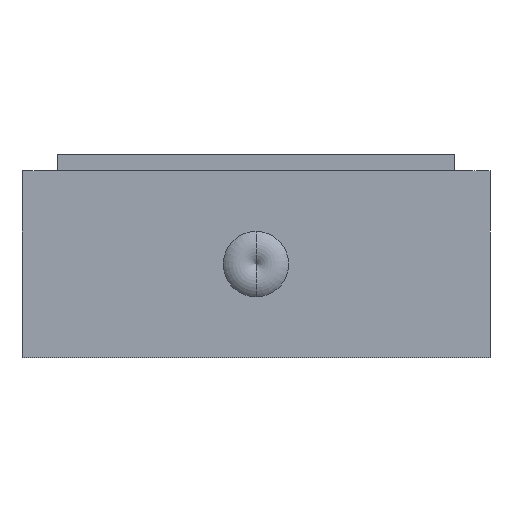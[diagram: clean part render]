
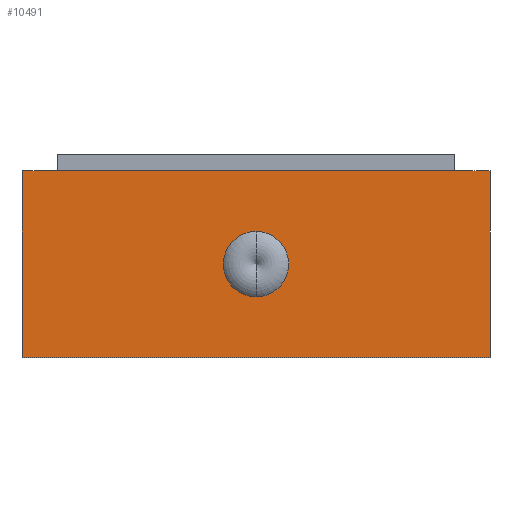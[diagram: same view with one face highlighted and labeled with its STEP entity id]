
A CAD part, front view. The second image highlights one B-rep face of the part: STEP entity #10491.
In plain terms, the highlighted planar face has unit normal (0, -1, 0).
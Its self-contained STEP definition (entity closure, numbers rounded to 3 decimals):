
#4563 = DIRECTION ( 'NONE',  ( 0., 0., -1. ) ) ;
#4565 = DIRECTION ( 'NONE',  ( 0., -1., 0. ) ) ;
#4566 = CARTESIAN_POINT ( 'NONE',  ( -20.035, -51.5, -16.002 ) ) ;
#4567 = AXIS2_PLACEMENT_3D ( 'NONE', #4566, #4565, #4563 ) ;
#4568 = PLANE ( 'NONE',  #4567 ) ;
#4591 = FACE_BOUND ( 'NONE', #10502, .T. ) ;
#4592 = FACE_OUTER_BOUND ( 'NONE', #10492, .T. ) ;
#9060 = VERTEX_POINT ( 'NONE', #19329 ) ;
#9062 = EDGE_CURVE ( 'NONE', #9063, #9060, #19328, .T. ) ;
#9063 = VERTEX_POINT ( 'NONE', #19323 ) ;
#10491 = ADVANCED_FACE ( 'NONE', ( #4592, #4591 ), #4568, .T. ) ;
#10492 = EDGE_LOOP ( 'NONE', ( #10493, #10494, #10497, #10500 ) ) ;
#10493 = ORIENTED_EDGE ( 'NONE', *, *, #10566, .F. ) ;
#10494 = ORIENTED_EDGE ( 'NONE', *, *, #10495, .F. ) ;
#10495 = EDGE_CURVE ( 'NONE', #10496, #10564, #34602, .T. ) ;
#10496 = VERTEX_POINT ( 'NONE', #34608 ) ;
#10497 = ORIENTED_EDGE ( 'NONE', *, *, #10498, .T. ) ;
#10498 = EDGE_CURVE ( 'NONE', #10496, #10499, #34607, .T. ) ;
#10499 = VERTEX_POINT ( 'NONE', #34603 ) ;
#10500 = ORIENTED_EDGE ( 'NONE', *, *, #10501, .T. ) ;
#10501 = EDGE_CURVE ( 'NONE', #10499, #10567, #34601, .T. ) ;
#10502 = EDGE_LOOP ( 'NONE', ( #10503, #10504 ) ) ;
#10503 = ORIENTED_EDGE ( 'NONE', *, *, #9062, .T. ) ;
#10504 = ORIENTED_EDGE ( 'NONE', *, *, #10505, .T. ) ;
#10505 = EDGE_CURVE ( 'NONE', #9060, #9063, #34597, .T. ) ;
#10564 = VERTEX_POINT ( 'NONE', #38123 ) ;
#10566 = EDGE_CURVE ( 'NONE', #10564, #10567, #38122, .T. ) ;
#10567 = VERTEX_POINT ( 'NONE', #38118 ) ;
#19323 = CARTESIAN_POINT ( 'NONE',  ( 0., -51.5, -5.204 ) ) ;
#19324 = DIRECTION ( 'NONE',  ( 0., 0., 1. ) ) ;
#19325 = DIRECTION ( 'NONE',  ( 0., 1., 0. ) ) ;
#19326 = CARTESIAN_POINT ( 'NONE',  ( 0., -51.5, -8.001 ) ) ;
#19327 = AXIS2_PLACEMENT_3D ( 'NONE', #19326, #19325, #19324 ) ;
#19328 = CIRCLE ( 'NONE', #19327, 2.797 ) ;
#19329 = CARTESIAN_POINT ( 'NONE',  ( 0., -51.5, -10.798 ) ) ;
#34589 = DIRECTION ( 'NONE',  ( 0., 1., 0. ) ) ;
#34590 = CARTESIAN_POINT ( 'NONE',  ( 0., -51.5, -8.001 ) ) ;
#34595 = DIRECTION ( 'NONE',  ( 0., 0., 1. ) ) ;
#34596 = AXIS2_PLACEMENT_3D ( 'NONE', #34590, #34589, #34595 ) ;
#34597 = CIRCLE ( 'NONE', #34596, 2.797 ) ;
#34598 = DIRECTION ( 'NONE',  ( 0., 0., 1. ) ) ;
#34599 = VECTOR ( 'NONE', #34598, 1000. ) ;
#34600 = CARTESIAN_POINT ( 'NONE',  ( 20.035, -51.5, -16.002 ) ) ;
#34601 = LINE ( 'NONE', #34600, #34599 ) ;
#34602 = LINE ( 'NONE', #34611, #34610 ) ;
#34603 = CARTESIAN_POINT ( 'NONE',  ( 20.035, -51.5, -16.002 ) ) ;
#34604 = DIRECTION ( 'NONE',  ( 1., 0., 0. ) ) ;
#34605 = VECTOR ( 'NONE', #34604, 1000. ) ;
#34606 = CARTESIAN_POINT ( 'NONE',  ( -20.035, -51.5, -16.002 ) ) ;
#34607 = LINE ( 'NONE', #34606, #34605 ) ;
#34608 = CARTESIAN_POINT ( 'NONE',  ( -20.035, -51.5, -16.002 ) ) ;
#34609 = DIRECTION ( 'NONE',  ( 0., 0., 1. ) ) ;
#34610 = VECTOR ( 'NONE', #34609, 1000. ) ;
#34611 = CARTESIAN_POINT ( 'NONE',  ( -20.035, -51.5, -16.002 ) ) ;
#38118 = CARTESIAN_POINT ( 'NONE',  ( 20.035, -51.5, 0. ) ) ;
#38119 = DIRECTION ( 'NONE',  ( 1., 0., 0. ) ) ;
#38120 = VECTOR ( 'NONE', #38119, 1000. ) ;
#38121 = CARTESIAN_POINT ( 'NONE',  ( -20.035, -51.5, 0. ) ) ;
#38122 = LINE ( 'NONE', #38121, #38120 ) ;
#38123 = CARTESIAN_POINT ( 'NONE',  ( -20.035, -51.5, 0. ) ) ;
